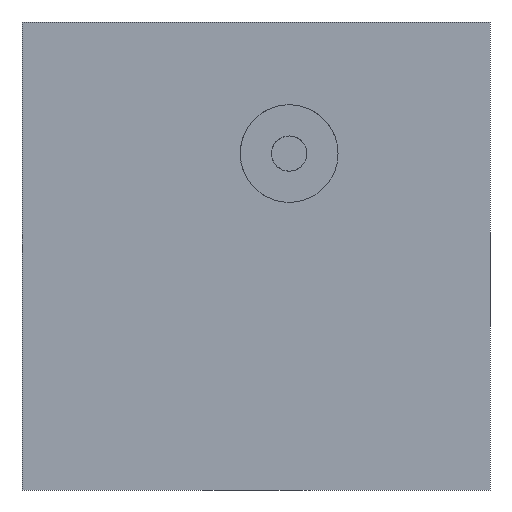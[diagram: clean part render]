
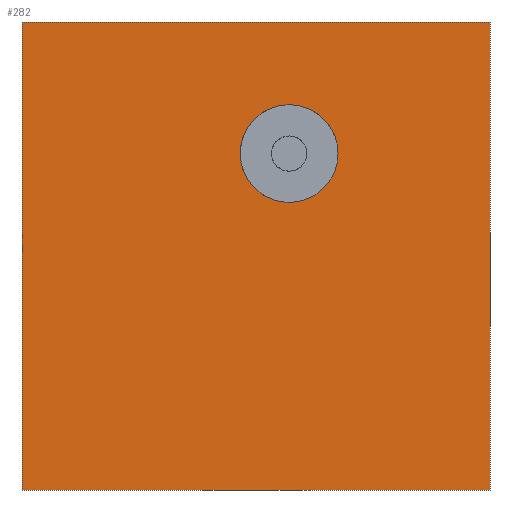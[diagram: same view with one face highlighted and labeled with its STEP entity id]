
A CAD part, front view. The second image highlights one B-rep face of the part: STEP entity #282.
In plain terms, the highlighted planar face has unit normal (0, -1, 0).
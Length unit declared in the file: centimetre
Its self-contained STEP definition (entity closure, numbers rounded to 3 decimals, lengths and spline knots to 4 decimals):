
#9 = LINE ( 'NONE', #1217, #1067 ) ;
#42 = EDGE_LOOP ( 'NONE', ( #203, #2628 ) ) ;
#89 = ORIENTED_EDGE ( 'NONE', *, *, #1359, .T. ) ;
#109 = CARTESIAN_POINT ( 'NONE',  ( 1000., 0., 0. ) ) ;
#136 = CARTESIAN_POINT ( 'NONE',  ( 0., 0., 1000. ) ) ;
#141 = DIRECTION ( 'NONE',  ( 1., 0., 0. ) ) ;
#153 = DIRECTION ( 'NONE',  ( 0., 0., -1. ) ) ;
#203 = ORIENTED_EDGE ( 'NONE', *, *, #1874, .F. ) ;
#235 = CARTESIAN_POINT ( 'NONE',  ( 0., 0., 0. ) ) ;
#282 = ADVANCED_FACE ( 'NONE', ( #1586, #2402 ), #558, .F. ) ;
#375 = EDGE_CURVE ( 'NONE', #2568, #932, #1136, .T. ) ;
#382 = VERTEX_POINT ( 'NONE', #109 ) ;
#477 = DIRECTION ( 'NONE',  ( 0., 0., -1. ) ) ;
#525 = DIRECTION ( 'NONE',  ( 0., 0., 1. ) ) ;
#548 = DIRECTION ( 'NONE',  ( 0., 1., 0. ) ) ;
#558 = PLANE ( 'NONE',  #1124 ) ;
#694 = VECTOR ( 'NONE', #798, 100. ) ;
#720 = ORIENTED_EDGE ( 'NONE', *, *, #2267, .F. ) ;
#749 = CARTESIAN_POINT ( 'NONE',  ( 0., 0., 1000. ) ) ;
#765 = CARTESIAN_POINT ( 'NONE',  ( 570.8068, 0., 718.9469 ) ) ;
#779 = LINE ( 'NONE', #1167, #1127 ) ;
#798 = DIRECTION ( 'NONE',  ( 0., 0., -1. ) ) ;
#812 = CIRCLE ( 'NONE', #1941, 104.4908 ) ;
#875 = CARTESIAN_POINT ( 'NONE',  ( 0., 0., 1000. ) ) ;
#932 = VERTEX_POINT ( 'NONE', #1518 ) ;
#1067 = VECTOR ( 'NONE', #2043, 100. ) ;
#1074 = CARTESIAN_POINT ( 'NONE',  ( 570.8068, 0., 823.4378 ) ) ;
#1119 = CARTESIAN_POINT ( 'NONE',  ( 570.8068, 0., 718.9469 ) ) ;
#1124 = AXIS2_PLACEMENT_3D ( 'NONE', #749, #548, #525 ) ;
#1127 = VECTOR ( 'NONE', #141, 100. ) ;
#1136 = LINE ( 'NONE', #136, #2204 ) ;
#1167 = CARTESIAN_POINT ( 'NONE',  ( 0., 0., 0. ) ) ;
#1189 = ORIENTED_EDGE ( 'NONE', *, *, #375, .F. ) ;
#1217 = CARTESIAN_POINT ( 'NONE',  ( 0., 0., 1000. ) ) ;
#1237 = LINE ( 'NONE', #2062, #694 ) ;
#1264 = EDGE_CURVE ( 'NONE', #2336, #382, #779, .T. ) ;
#1283 = EDGE_CURVE ( 'NONE', #1825, #2158, #2620, .T. ) ;
#1359 = EDGE_CURVE ( 'NONE', #2568, #2336, #9, .T. ) ;
#1518 = CARTESIAN_POINT ( 'NONE',  ( 1000., 0., 1000. ) ) ;
#1586 = FACE_BOUND ( 'NONE', #42, .T. ) ;
#1747 = ORIENTED_EDGE ( 'NONE', *, *, #1264, .T. ) ;
#1813 = AXIS2_PLACEMENT_3D ( 'NONE', #765, #2408, #153 ) ;
#1825 = VERTEX_POINT ( 'NONE', #1074 ) ;
#1874 = EDGE_CURVE ( 'NONE', #2158, #1825, #812, .T. ) ;
#1941 = AXIS2_PLACEMENT_3D ( 'NONE', #1119, #2561, #477 ) ;
#2043 = DIRECTION ( 'NONE',  ( 0., 0., -1. ) ) ;
#2062 = CARTESIAN_POINT ( 'NONE',  ( 1000., 0., 1000. ) ) ;
#2091 = CARTESIAN_POINT ( 'NONE',  ( 570.8068, 0., 614.4561 ) ) ;
#2158 = VERTEX_POINT ( 'NONE', #2091 ) ;
#2160 = EDGE_LOOP ( 'NONE', ( #1747, #720, #1189, #89 ) ) ;
#2177 = DIRECTION ( 'NONE',  ( 1., 0., 0. ) ) ;
#2204 = VECTOR ( 'NONE', #2177, 100. ) ;
#2267 = EDGE_CURVE ( 'NONE', #932, #382, #1237, .T. ) ;
#2336 = VERTEX_POINT ( 'NONE', #235 ) ;
#2402 = FACE_OUTER_BOUND ( 'NONE', #2160, .T. ) ;
#2408 = DIRECTION ( 'NONE',  ( 0., -1., 0. ) ) ;
#2561 = DIRECTION ( 'NONE',  ( 0., -1., 0. ) ) ;
#2568 = VERTEX_POINT ( 'NONE', #875 ) ;
#2620 = CIRCLE ( 'NONE', #1813, 104.4908 ) ;
#2628 = ORIENTED_EDGE ( 'NONE', *, *, #1283, .F. ) ;
